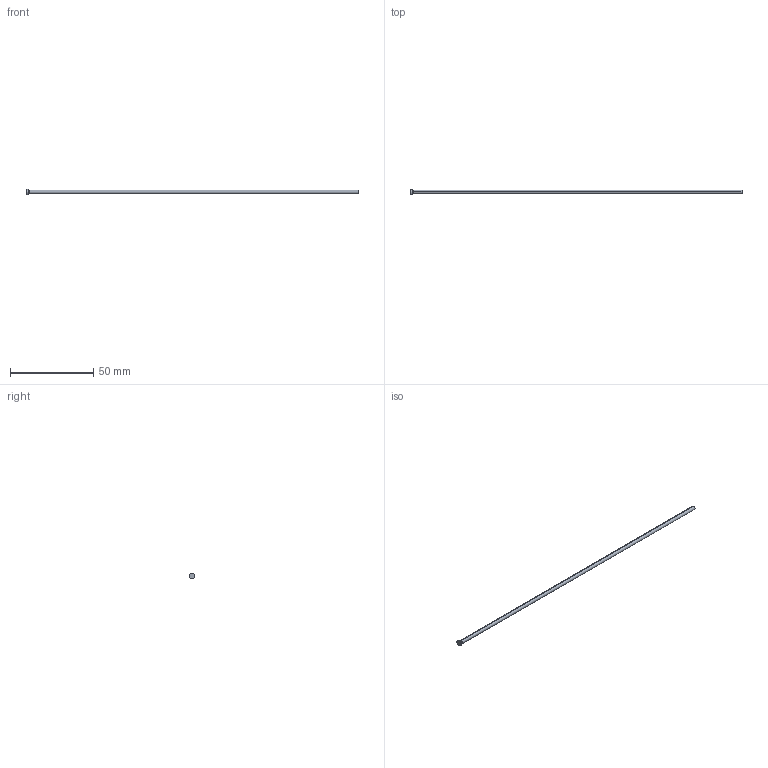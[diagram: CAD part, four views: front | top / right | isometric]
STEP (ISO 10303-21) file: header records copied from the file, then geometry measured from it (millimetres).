
FILE_DESCRIPTION (( 'STEP AP214' ), '1' );
FILE_NAME ('D-2,25x200.STEP', '2020-06-08T10:34:06', ( 'August' ), ( '' ), 'SwSTEP 2.0', 'SolidWorks 2018', '' );
FILE_SCHEMA (( 'AUTOMOTIVE_DESIGN' ));
Length unit declared in the file: millimetre
Products named in the file (1): D-2,25x200
Bounding box: 200 x 3.5 x 3.5 mm (x, y, z)
Volume: 801 mm3; surface area: 1432.9 mm2
Topology: 1 solids, 1 shells, 10 faces, 18 edges, 10 vertices
Faces by surface type: cylinder 4, torus 2, cone 2, plane 2
Entity records: 280 total; most frequent: DIRECTION 52, CARTESIAN_POINT 39, ORIENTED_EDGE 36, AXIS2_PLACEMENT_3D 23, EDGE_CURVE 18, CIRCLE 12, FACE_OUTER_BOUND 10, VERTEX_POINT 10
